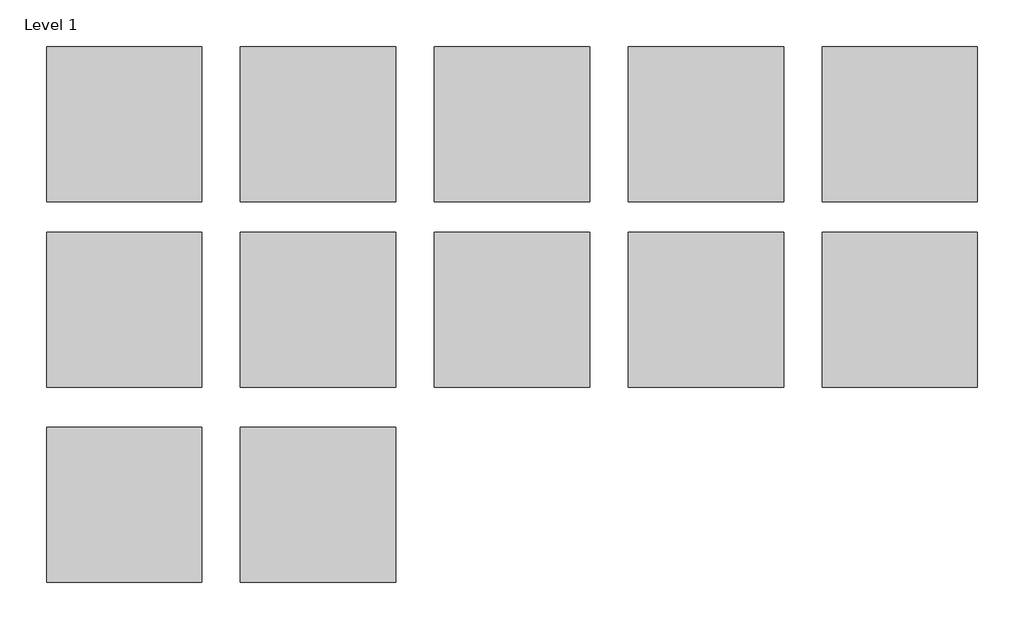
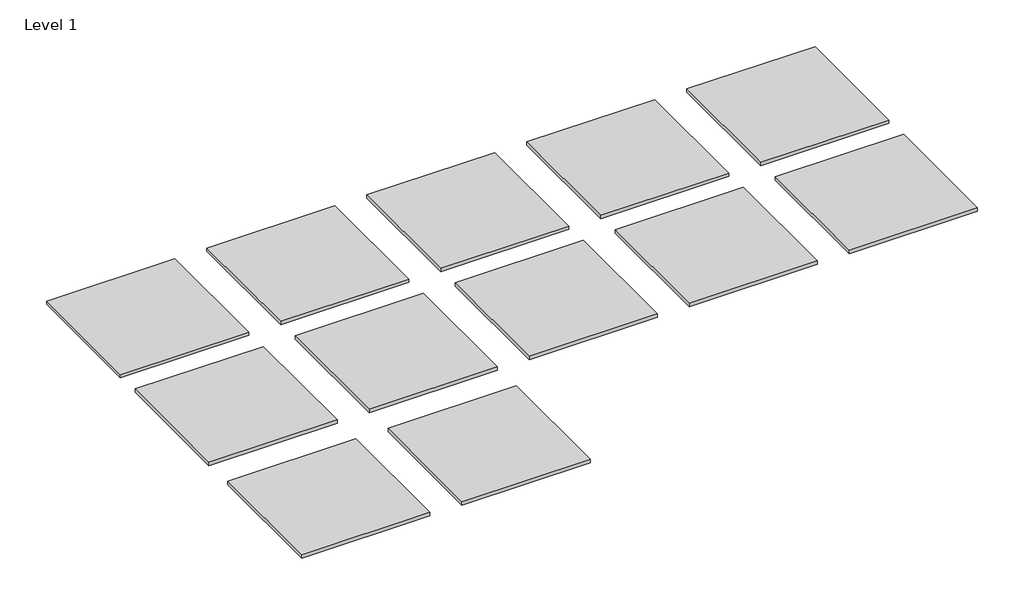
# One storey: 12 proxies.
"""IFC4 building model written with IfcOpenShell, lengths in millimetres."""

from ifc_helpers import new_model, si_unit, origin, place, context, project, spatial, transform, mapped, element, save
from components import materialsample_type_1_19775645

model = new_model("IFC4")

# Units and contexts
model_context = context("Model", 3, world=origin())
ifc_project = project(units=[si_unit("LENGTHUNIT", "METRE", prefix="MILLI")], contexts=[model_context])

# Site, building, storey
site = spatial("IfcSite", under=ifc_project)
building = spatial("IfcBuilding", under=site)
storey = spatial("IfcBuildingStorey", under=building, Name="Level 1", Elevation=0.0)

# Proxies
placement = place(None, origin())
materialsample_type_1_shape = materialsample_type_1_19775645(model_context)
element("IfcBuildingElementProxy", 1, Name="MaterialSample : Type 1", ObjectType="MaterialSample : Type 1", at=placement, inside=storey, context=model_context, shape_type="MappedRepresentation", body=[
    mapped(materialsample_type_1_shape, transform((60807.6, 0.0, 0.0), x_axis=(1.0, 0.0, 0.0), y_axis=(0.0, 1.0, 0.0), z_axis=(0.0, 0.0, 1.0))),
])
element("IfcBuildingElementProxy", 2, Name="MaterialSample : Type 1", ObjectType="MaterialSample : Type 1", at=placement, inside=storey, context=model_context, shape_type="MappedRepresentation", body=[
    mapped(materialsample_type_1_shape, transform((61950.6, 0.0, 0.0), x_axis=(1.0, 0.0, 0.0), y_axis=(0.0, 1.0, 0.0), z_axis=(0.0, 0.0, 1.0))),
])
element("IfcBuildingElementProxy", 3, Name="MaterialSample : Type 1", ObjectType="MaterialSample : Type 1", at=placement, inside=storey, context=model_context, shape_type="MappedRepresentation", body=[
    mapped(materialsample_type_1_shape, transform((63093.6, 0.0, 0.0), x_axis=(1.0, 0.0, 0.0), y_axis=(0.0, 1.0, 0.0), z_axis=(0.0, 0.0, 1.0))),
])
element("IfcBuildingElementProxy", 4, Name="MaterialSample : Type 1", ObjectType="MaterialSample : Type 1", at=placement, inside=storey, context=model_context, shape_type="MappedRepresentation", body=[
    mapped(materialsample_type_1_shape, transform((64236.6, 0.0, 0.0), x_axis=(1.0, 0.0, 0.0), y_axis=(0.0, 1.0, 0.0), z_axis=(0.0, 0.0, 1.0))),
])
element("IfcBuildingElementProxy", 5, Name="MaterialSample : Type 1", ObjectType="MaterialSample : Type 1", at=placement, inside=storey, context=model_context, shape_type="MappedRepresentation", body=[
    mapped(materialsample_type_1_shape, transform((65379.6, 0.0, 0.0), x_axis=(1.0, 0.0, 0.0), y_axis=(0.0, 1.0, 0.0), z_axis=(0.0, 0.0, 1.0))),
])
element("IfcBuildingElementProxy", 6, Name="MaterialSample : Type 1", ObjectType="MaterialSample : Type 1", at=placement, inside=storey, context=model_context, shape_type="MappedRepresentation", body=[
    mapped(materialsample_type_1_shape, transform((60807.6, -1093.9367445, 0.0), x_axis=(1.0, 0.0, 0.0), y_axis=(0.0, 1.0, 0.0), z_axis=(0.0, 0.0, 1.0))),
])
element("IfcBuildingElementProxy", 7, Name="MaterialSample : Type 1", ObjectType="MaterialSample : Type 1", at=placement, inside=storey, context=model_context, shape_type="MappedRepresentation", body=[
    mapped(materialsample_type_1_shape, transform((61950.6, -1093.9367445, 0.0), x_axis=(1.0, 0.0, 0.0), y_axis=(0.0, 1.0, 0.0), z_axis=(0.0, 0.0, 1.0))),
])
element("IfcBuildingElementProxy", 8, Name="MaterialSample : Type 1", ObjectType="MaterialSample : Type 1", at=placement, inside=storey, context=model_context, shape_type="MappedRepresentation", body=[
    mapped(materialsample_type_1_shape, transform((63093.6, -1093.9367445, 0.0), x_axis=(1.0, 0.0, 0.0), y_axis=(0.0, 1.0, 0.0), z_axis=(0.0, 0.0, 1.0))),
])
element("IfcBuildingElementProxy", 9, Name="MaterialSample : Type 1", ObjectType="MaterialSample : Type 1", at=placement, inside=storey, context=model_context, shape_type="MappedRepresentation", body=[
    mapped(materialsample_type_1_shape, transform((64236.6, -1093.9367445, 0.0), x_axis=(1.0, 0.0, 0.0), y_axis=(0.0, 1.0, 0.0), z_axis=(0.0, 0.0, 1.0))),
])
element("IfcBuildingElementProxy", 10, Name="MaterialSample : Type 1", ObjectType="MaterialSample : Type 1", at=placement, inside=storey, context=model_context, shape_type="MappedRepresentation", body=[
    mapped(materialsample_type_1_shape, transform((65379.6, -1093.9367445, 0.0), x_axis=(1.0, 0.0, 0.0), y_axis=(0.0, 1.0, 0.0), z_axis=(0.0, 0.0, 1.0))),
])
element("IfcBuildingElementProxy", 11, Name="MaterialSample : Type 1", ObjectType="MaterialSample : Type 1", at=placement, inside=storey, context=model_context, shape_type="MappedRepresentation", body=[
    mapped(materialsample_type_1_shape, transform((60807.6, -2242.5703262, 0.0), x_axis=(1.0, 0.0, 0.0), y_axis=(0.0, 1.0, 0.0), z_axis=(0.0, 0.0, 1.0))),
])
element("IfcBuildingElementProxy", 12, Name="MaterialSample : Type 1", ObjectType="MaterialSample : Type 1", at=placement, inside=storey, context=model_context, shape_type="MappedRepresentation", body=[
    mapped(materialsample_type_1_shape, transform((61950.6, -2242.5703262, 0.0), x_axis=(1.0, 0.0, 0.0), y_axis=(0.0, 1.0, 0.0), z_axis=(0.0, 0.0, 1.0))),
])

save(model, "model.ifc")
